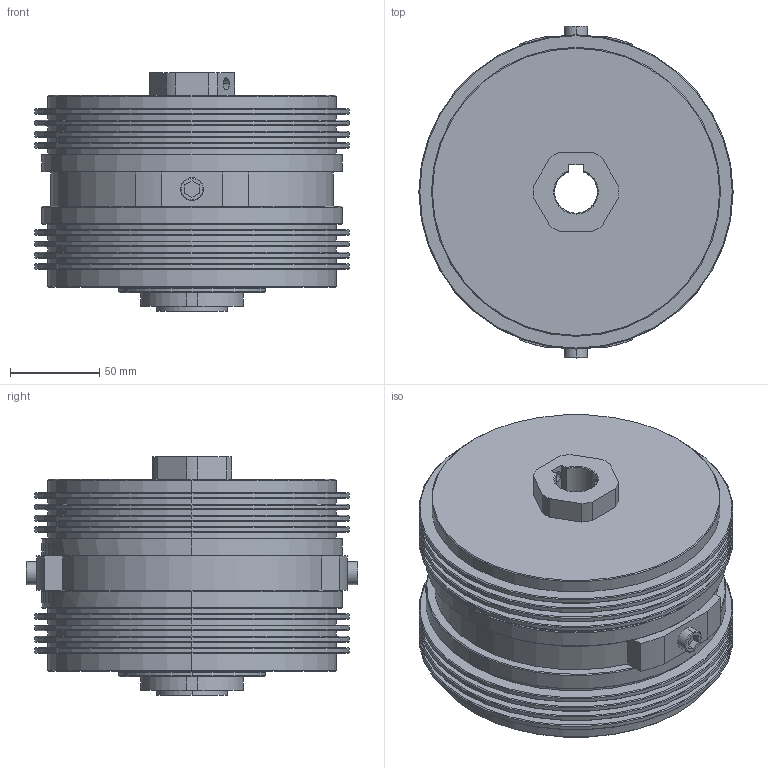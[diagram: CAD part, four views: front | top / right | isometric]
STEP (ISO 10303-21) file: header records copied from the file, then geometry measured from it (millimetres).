
FILE_DESCRIPTION (( 'STEP AP214' ), '1' );
FILE_NAME ('MTL140-24mm CUSTOMER SOLID.STEP', '2015-10-22T19:04:14', ( '' ), ( '' ), 'SwSTEP 2.0', 'SolidWorks 2014', '' );
FILE_SCHEMA (( 'AUTOMOTIVE_DESIGN' ));
Length unit declared in the file: inch
Products named in the file (1): MTL140-24mm CUSTOMER SOLID
Bounding box: 176.53 x 186.49 x 134.11 mm (x, y, z)
Volume: 2362654.9 mm3; surface area: 180759.1 mm2
Topology: 1 solids, 1 shells, 328 faces, 786 edges, 483 vertices
Faces by surface type: plane 185, cylinder 79, cone 58, torus 6
Entity records: 11036 total; most frequent: DIRECTION 1726, CARTESIAN_POINT 1670, ORIENTED_EDGE 1560, EDGE_CURVE 780, AXIS2_PLACEMENT_3D 623, VERTEX_POINT 483, LINE 480, VECTOR 480
